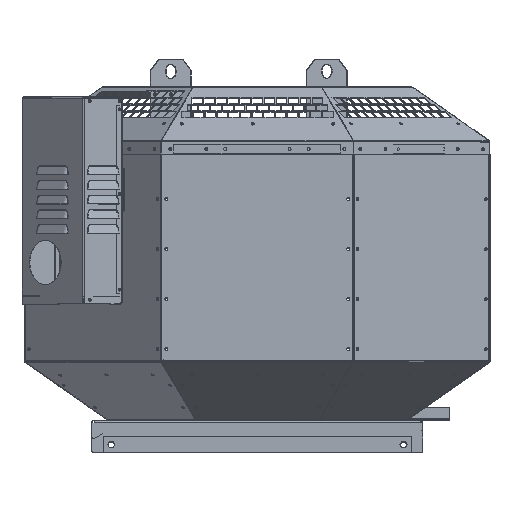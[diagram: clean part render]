
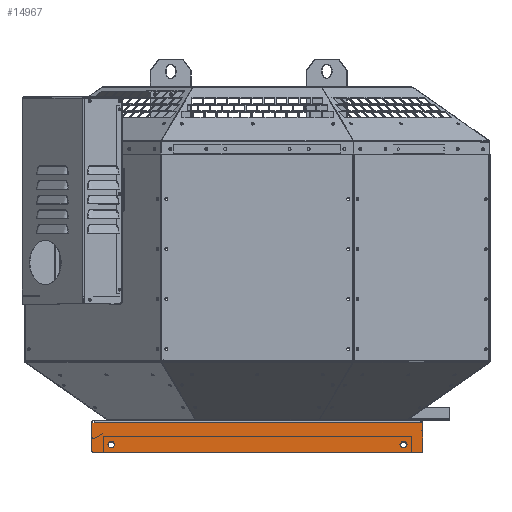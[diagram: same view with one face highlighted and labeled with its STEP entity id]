
A CAD part, top view. The second image highlights one B-rep face of the part: STEP entity #14967.
In plain terms, the highlighted planar face has unit normal (0, 0, 1).
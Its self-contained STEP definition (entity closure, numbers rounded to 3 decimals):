
#1587 = VECTOR ( 'NONE', #98591, 1000. ) ;
#4598 = LINE ( 'NONE', #70350, #90372 ) ;
#5998 = FACE_BOUND ( 'NONE', #65723, .T. ) ;
#6014 = DIRECTION ( 'NONE',  ( -1., 0., 0. ) ) ;
#6398 = ORIENTED_EDGE ( 'NONE', *, *, #107675, .F. ) ;
#6495 = EDGE_LOOP ( 'NONE', ( #101107, #85588, #6398, #61423, #94169, #44483, #92473, #83604 ) ) ;
#6776 = CARTESIAN_POINT ( 'NONE',  ( -231.75, -21., 220.3 ) ) ;
#7057 = EDGE_CURVE ( 'NONE', #107105, #56923, #43248, .T. ) ;
#8882 = VERTEX_POINT ( 'NONE', #99644 ) ;
#10420 = EDGE_CURVE ( 'NONE', #59782, #18622, #89981, .T. ) ;
#11077 = CIRCLE ( 'NONE', #38566, 3. ) ;
#12672 = AXIS2_PLACEMENT_3D ( 'NONE', #36563, #94725, #44919 ) ;
#14967 = ADVANCED_FACE ( 'NONE', ( #30672, #5998, #94431 ), #100326, .T. ) ;
#16513 = DIRECTION ( 'NONE',  ( 0., 0., 1. ) ) ;
#16771 = EDGE_CURVE ( 'NONE', #105088, #59782, #79405, .T. ) ;
#17328 = CARTESIAN_POINT ( 'NONE',  ( -204.5, -8.7, 220.3 ) ) ;
#18571 = VECTOR ( 'NONE', #49587, 1000. ) ;
#18622 = VERTEX_POINT ( 'NONE', #96219 ) ;
#18944 = CIRCLE ( 'NONE', #69729, 4.5 ) ;
#19240 = LINE ( 'NONE', #68569, #36106 ) ;
#20548 = DIRECTION ( 'NONE',  ( 0., 0., 1. ) ) ;
#21143 = EDGE_CURVE ( 'NONE', #105088, #21601, #4598, .T. ) ;
#21317 = CIRCLE ( 'NONE', #45456, 3. ) ;
#21601 = VERTEX_POINT ( 'NONE', #60103 ) ;
#21626 = CIRCLE ( 'NONE', #12672, 4.5 ) ;
#23570 = CARTESIAN_POINT ( 'NONE',  ( -228.75, -21., 220.3 ) ) ;
#24638 = VERTEX_POINT ( 'NONE', #6776 ) ;
#24758 = EDGE_CURVE ( 'NONE', #42617, #98124, #82296, .T. ) ;
#25744 = DIRECTION ( 'NONE',  ( 0., -1., 0. ) ) ;
#27387 = CARTESIAN_POINT ( 'NONE',  ( -204.5, -13.2, 220.3 ) ) ;
#27673 = EDGE_CURVE ( 'NONE', #18622, #24638, #19240, .T. ) ;
#28634 = ORIENTED_EDGE ( 'NONE', *, *, #34384, .F. ) ;
#28969 = CARTESIAN_POINT ( 'NONE',  ( -228.75, -24., 220.3 ) ) ;
#30640 = DIRECTION ( 'NONE',  ( 0., 0., 1. ) ) ;
#30672 = FACE_BOUND ( 'NONE', #92558, .T. ) ;
#31925 = DIRECTION ( 'NONE',  ( 0., -1., 0. ) ) ;
#33409 = AXIS2_PLACEMENT_3D ( 'NONE', #58797, #75518, #25744 ) ;
#34384 = EDGE_CURVE ( 'NONE', #98124, #42617, #21626, .T. ) ;
#35407 = EDGE_CURVE ( 'NONE', #8882, #105952, #18944, .T. ) ;
#35707 = DIRECTION ( 'NONE',  ( 0., -1., 0. ) ) ;
#36106 = VECTOR ( 'NONE', #93752, 1000. ) ;
#36563 = CARTESIAN_POINT ( 'NONE',  ( 204.5, -13.2, 220.3 ) ) ;
#38016 = CARTESIAN_POINT ( 'NONE',  ( -228.35, 17.6, 220.3 ) ) ;
#38566 = AXIS2_PLACEMENT_3D ( 'NONE', #23570, #81688, #31925 ) ;
#39145 = ORIENTED_EDGE ( 'NONE', *, *, #35407, .F. ) ;
#42617 = VERTEX_POINT ( 'NONE', #61669 ) ;
#43248 = LINE ( 'NONE', #90999, #18571 ) ;
#44483 = ORIENTED_EDGE ( 'NONE', *, *, #10420, .T. ) ;
#44919 = DIRECTION ( 'NONE',  ( 0., -1., 0. ) ) ;
#45456 = AXIS2_PLACEMENT_3D ( 'NONE', #80419, #30640, #88793 ) ;
#45620 = AXIS2_PLACEMENT_3D ( 'NONE', #27387, #85499, #35707 ) ;
#46443 = CARTESIAN_POINT ( 'NONE',  ( 204.5, -8.7, 220.3 ) ) ;
#49484 = VECTOR ( 'NONE', #6014, 1000. ) ;
#49583 = DIRECTION ( 'NONE',  ( 0., -1., 0. ) ) ;
#49587 = DIRECTION ( 'NONE',  ( -1., 0., 0. ) ) ;
#56923 = VERTEX_POINT ( 'NONE', #28969 ) ;
#57109 = CARTESIAN_POINT ( 'NONE',  ( -215.75, 17.6, 220.3 ) ) ;
#58797 = CARTESIAN_POINT ( 'NONE',  ( -215.75, 19.5, 220.3 ) ) ;
#59782 = VERTEX_POINT ( 'NONE', #38016 ) ;
#60103 = CARTESIAN_POINT ( 'NONE',  ( 231.75, 17.6, 220.3 ) ) ;
#60174 = LINE ( 'NONE', #65834, #79686 ) ;
#61423 = ORIENTED_EDGE ( 'NONE', *, *, #21143, .F. ) ;
#61669 = CARTESIAN_POINT ( 'NONE',  ( 204.5, -17.7, 220.3 ) ) ;
#65723 = EDGE_LOOP ( 'NONE', ( #39145, #90439 ) ) ;
#65834 = CARTESIAN_POINT ( 'NONE',  ( 231.75, 17.6, 220.3 ) ) ;
#66224 = CARTESIAN_POINT ( 'NONE',  ( 204.5, -13.2, 220.3 ) ) ;
#67764 = EDGE_CURVE ( 'NONE', #107105, #101087, #21317, .T. ) ;
#68569 = CARTESIAN_POINT ( 'NONE',  ( -231.75, 17.6, 220.3 ) ) ;
#69729 = AXIS2_PLACEMENT_3D ( 'NONE', #70262, #20548, #78658 ) ;
#70262 = CARTESIAN_POINT ( 'NONE',  ( -204.5, -13.2, 220.3 ) ) ;
#70350 = CARTESIAN_POINT ( 'NONE',  ( 215.75, 17.6, 220.3 ) ) ;
#70744 = EDGE_CURVE ( 'NONE', #24638, #56923, #11077, .T. ) ;
#71790 = EDGE_CURVE ( 'NONE', #105952, #8882, #99355, .T. ) ;
#74616 = DIRECTION ( 'NONE',  ( 0., -1., 0. ) ) ;
#75518 = DIRECTION ( 'NONE',  ( 0., 0., 1. ) ) ;
#78658 = DIRECTION ( 'NONE',  ( 0., -1., 0. ) ) ;
#79405 = LINE ( 'NONE', #105646, #49484 ) ;
#79686 = VECTOR ( 'NONE', #49583, 1000. ) ;
#80419 = CARTESIAN_POINT ( 'NONE',  ( 228.75, -21., 220.3 ) ) ;
#80721 = CARTESIAN_POINT ( 'NONE',  ( 228.35, 17.6, 220.3 ) ) ;
#81688 = DIRECTION ( 'NONE',  ( 0., 0., 1. ) ) ;
#82296 = CIRCLE ( 'NONE', #97969, 4.5 ) ;
#83604 = ORIENTED_EDGE ( 'NONE', *, *, #70744, .T. ) ;
#85499 = DIRECTION ( 'NONE',  ( 0., 0., 1. ) ) ;
#85588 = ORIENTED_EDGE ( 'NONE', *, *, #67764, .T. ) ;
#87138 = DIRECTION ( 'NONE',  ( 1., 0., 0. ) ) ;
#88793 = DIRECTION ( 'NONE',  ( 0., -1., 0. ) ) ;
#89981 = LINE ( 'NONE', #57109, #1587 ) ;
#90372 = VECTOR ( 'NONE', #87138, 1000. ) ;
#90439 = ORIENTED_EDGE ( 'NONE', *, *, #71790, .F. ) ;
#90999 = CARTESIAN_POINT ( 'NONE',  ( -215.75, -24., 220.3 ) ) ;
#92473 = ORIENTED_EDGE ( 'NONE', *, *, #27673, .T. ) ;
#92558 = EDGE_LOOP ( 'NONE', ( #96169, #28634 ) ) ;
#92576 = CARTESIAN_POINT ( 'NONE',  ( 228.75, -24., 220.3 ) ) ;
#93752 = DIRECTION ( 'NONE',  ( 0., -1., 0. ) ) ;
#94169 = ORIENTED_EDGE ( 'NONE', *, *, #16771, .T. ) ;
#94431 = FACE_OUTER_BOUND ( 'NONE', #6495, .T. ) ;
#94725 = DIRECTION ( 'NONE',  ( 0., 0., 1. ) ) ;
#95591 = CARTESIAN_POINT ( 'NONE',  ( 231.75, -21., 220.3 ) ) ;
#96169 = ORIENTED_EDGE ( 'NONE', *, *, #24758, .F. ) ;
#96219 = CARTESIAN_POINT ( 'NONE',  ( -231.75, 17.6, 220.3 ) ) ;
#97969 = AXIS2_PLACEMENT_3D ( 'NONE', #66224, #16513, #74616 ) ;
#98124 = VERTEX_POINT ( 'NONE', #46443 ) ;
#98591 = DIRECTION ( 'NONE',  ( -1., 0., 0. ) ) ;
#99355 = CIRCLE ( 'NONE', #45620, 4.5 ) ;
#99644 = CARTESIAN_POINT ( 'NONE',  ( -204.5, -17.7, 220.3 ) ) ;
#100326 = PLANE ( 'NONE',  #33409 ) ;
#101087 = VERTEX_POINT ( 'NONE', #95591 ) ;
#101107 = ORIENTED_EDGE ( 'NONE', *, *, #7057, .F. ) ;
#105088 = VERTEX_POINT ( 'NONE', #80721 ) ;
#105646 = CARTESIAN_POINT ( 'NONE',  ( -215.75, 17.6, 220.3 ) ) ;
#105952 = VERTEX_POINT ( 'NONE', #17328 ) ;
#107105 = VERTEX_POINT ( 'NONE', #92576 ) ;
#107675 = EDGE_CURVE ( 'NONE', #21601, #101087, #60174, .T. ) ;
